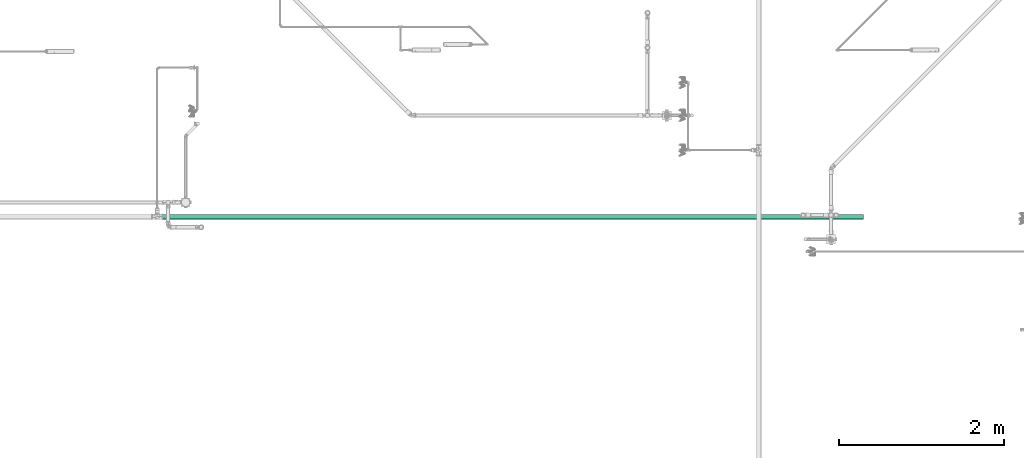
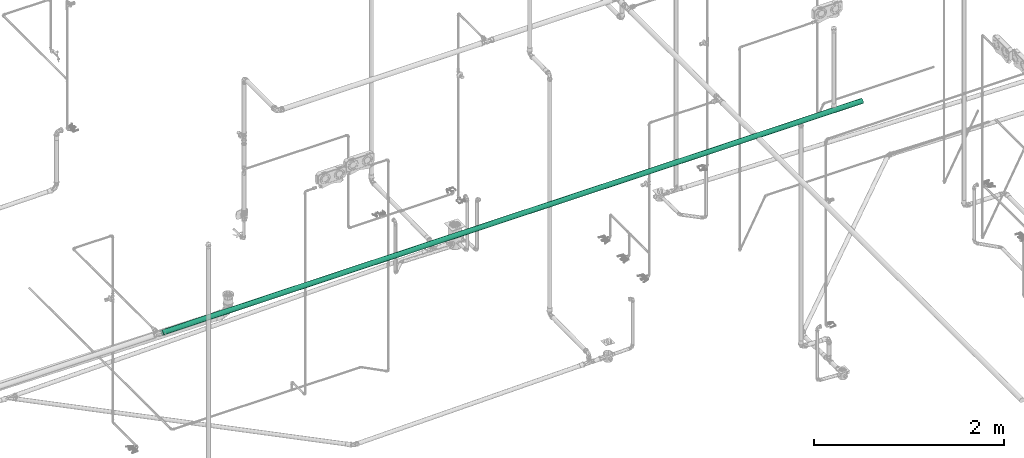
# One storey, part 10 of 589: 1 flow segment.
"""IFC2X3 building model written with IfcOpenShell, lengths in millimetres."""

import ifcopenshell
import ifcopenshell.guid

model = None  # the IFC model being written
_history = None  # IfcOwnerHistory: only IFC2X3 demands one
_inside = {}  # id of a spatial element -> (the spatial element, [elements in it])
_under = {}  # id of a project, library or spatial element -> (it, [spatial elements below it])
_declared = {}  # id of a project -> (the project, [libraries it declares])
_typed = {}  # id of a type object -> (the type object, [elements of that type])
_made_of = {}  # id of a material, layer set ... -> (it, [elements and type objects made of it])


def new_model(schema):
    """Start an empty IFC model of exactly this schema.

    Asked for "IFC4X3", IfcOpenShell would pick the latest addendum, in which some entities
    have other attributes; the version numbers below select the first issue.
    IFC2X3 requires an IfcOwnerHistory on every rooted entity: one is made here for all.
    """
    global model, _history
    if schema == "IFC4X3":
        model = ifcopenshell.file(schema_version=(4, 3, 0, 0))
    else:
        model = ifcopenshell.file(schema=schema)
    _inside.clear()
    _under.clear()
    _declared.clear()
    _typed.clear()
    _made_of.clear()
    _history = None
    if model.schema == "IFC2X3":
        org = make("IfcOrganization", Name="unknown")
        user = make(
            "IfcPersonAndOrganization",
            ThePerson=make("IfcPerson", FamilyName="unknown"),
            TheOrganization=org,
        )
        app = make(
            "IfcApplication",
            ApplicationDeveloper=org,
            Version="unknown",
            ApplicationFullName="unknown",
            ApplicationIdentifier="unknown",
        )
        _history = make(
            "IfcOwnerHistory",
            OwningUser=user,
            OwningApplication=app,
            ChangeAction="ADDED",
            CreationDate=0,
        )
    return model


def make(cls, **values):
    """One entity of the class cls with the attributes given. An attribute that is None is left unset."""
    return model.create_entity(
        cls, **{name: value for name, value in values.items() if value is not None}
    )


def entity(cls, *values):
    """Any entity or typed value of the class cls, its attributes in the order of the schema. None: left unset."""
    e = model.create_entity(cls)
    for i, value in enumerate(values):
        if value is not None:
            e[i] = value
    return e


def rooted(cls, **values):
    """An entity with a GlobalId (a new one), such as an element, a storey or a relation."""
    return make(cls, GlobalId=ifcopenshell.guid.new(), OwnerHistory=_history, **values)


def si_unit(unit_type, name, prefix=None):
    """IfcSIUnit, for example si_unit("LENGTHUNIT", "METRE", prefix="MILLI")."""
    return make("IfcSIUnit", UnitType=unit_type, Prefix=prefix, Name=name)


def converted_unit(unit_type, name, factor, base, dimensions=None, offset=None):
    """IfcConversionBasedUnit, such as the inch: factor (a typed value) times the base unit."""
    return make(
        "IfcConversionBasedUnit"
        if offset is None
        else "IfcConversionBasedUnitWithOffset",
        ConversionOffset=offset,
        Dimensions=None
        if dimensions is None
        else entity("IfcDimensionalExponents", *dimensions),
        UnitType=unit_type,
        Name=name,
        ConversionFactor=make(
            "IfcMeasureWithUnit", ValueComponent=factor, UnitComponent=base
        ),
    )


def derived_unit(unit_type, elements):
    """IfcDerivedUnit: a product of units, each with its exponent."""
    return make(
        "IfcDerivedUnit",
        Elements=[
            make("IfcDerivedUnitElement", Unit=unit, Exponent=power)
            for unit, power in elements
        ],
        UnitType=unit_type,
    )


def assignment(units):
    """IfcUnitAssignment: the units of a project."""
    return None if units is None else make("IfcUnitAssignment", Units=units)


def point(xyz):
    """IfcCartesianPoint."""
    return None if xyz is None else make("IfcCartesianPoint", Coordinates=xyz)


def direction(xyz):
    """IfcDirection."""
    return None if xyz is None else make("IfcDirection", DirectionRatios=xyz)


def frame(location, z_axis=None, x_axis=None):
    """IfcAxis2Placement3D, a coordinate frame: its origin and axes. An axis left out is left unset."""
    return make(
        "IfcAxis2Placement3D",
        Location=point(location),
        Axis=direction(z_axis),
        RefDirection=direction(x_axis),
    )


def frame_2d(location, x_axis=None):
    """IfcAxis2Placement2D, a coordinate frame in the plane: its origin and x axis."""
    return make(
        "IfcAxis2Placement2D", Location=point(location), RefDirection=direction(x_axis)
    )


def origin():
    """The frame at (0, 0, 0) with its axes left unset."""
    return frame((0.0, 0.0, 0.0))


def place(relative_to, where):
    """IfcLocalPlacement: puts the frame where relative to a parent placement (None: the world)."""
    return make(
        "IfcLocalPlacement", PlacementRelTo=relative_to, RelativePlacement=where
    )


def context(
    kind, dimensions, precision=None, world=None, true_north=None, identifier=None
):
    """IfcGeometricRepresentationContext, for example the 3D "Model" context."""
    return make(
        "IfcGeometricRepresentationContext",
        ContextIdentifier=identifier,
        ContextType=kind,
        CoordinateSpaceDimension=dimensions,
        Precision=precision,
        WorldCoordinateSystem=world,
        TrueNorth=true_north,
    )


def subcontext(parent, identifier, kind, view, scale=None):
    """IfcGeometricRepresentationSubContext, for example "Body" below "Model"."""
    return make(
        "IfcGeometricRepresentationSubContext",
        ContextIdentifier=identifier,
        ContextType=kind,
        ParentContext=parent,
        TargetScale=scale,
        TargetView=view,
    )


def project(units=None, contexts=None):
    """IfcProject with its units and contexts."""
    return rooted(
        "IfcProject",
        Name="project",
        RepresentationContexts=contexts,
        UnitsInContext=assignment(units),
    )


def spatial(cls, under=None, at=None, **own):
    """A site, building, storey or space (cls), placed at a placement, below another one or the project."""
    s = rooted(cls, ObjectPlacement=at, **own)
    if under is not None:
        _under.setdefault(under.id(), (under, []))[1].append(s)
    return s


def profile(cls, at=None, kind="AREA", **sizes):
    """A parametric profile (cls). Its sizes go by their IFC names, for example OverallWidth=200.0."""
    return make(cls, ProfileType=kind, Position=at, **sizes)


def circle(**sizes):
    """IfcCircleProfileDef."""
    return profile("IfcCircleProfileDef", **sizes)


def extrude(swept, where, along, depth):
    """IfcExtrudedAreaSolid: the profile swept, set in the frame where, extruded along a direction by depth."""
    return make(
        "IfcExtrudedAreaSolid",
        SweptArea=swept,
        Position=where,
        ExtrudedDirection=direction(along),
        Depth=depth,
    )


def shape(context_of_items, identifier, shape_type, items):
    """IfcShapeRepresentation: the items that make up one representation, for example the "Body"."""
    return make(
        "IfcShapeRepresentation",
        ContextOfItems=context_of_items,
        RepresentationIdentifier=identifier,
        RepresentationType=shape_type,
        Items=items,
    )


def made_of(thing, what):
    """Note that an element or type object is made of a material, layer set ...; save() writes the relation."""
    if what is not None:
        _made_of.setdefault(what.id(), (what, []))[1].append(thing)
    return thing


def type_object(cls, material=None, **own):
    """A type object (cls), such as IfcWallType, which elements share."""
    return made_of(rooted(cls, **own), material)


def element(
    cls,
    number,
    at=None,
    inside=None,
    cuts=None,
    type_object=None,
    material=None,
    context=None,
    identifier="Body",
    shape_type=None,
    held_by="IfcProductDefinitionShape",
    body=None,
    shapes=None,
    **own,
):
    """One element of the class cls, such as IfcWall. Its Tag is "e" and its number.

    at: its placement. inside: the storey or other place that contains it. cuts: it is an
    opening in that element (IfcRelVoidsElement). A single representation is given by context,
    identifier, shape_type and body (its items); several are given by shapes. held_by: the class
    of the entity that holds the representations. save() writes the other relations.
    """
    e = rooted(cls, Tag="e%d" % number, ObjectPlacement=at, **own)
    if body is not None:
        shapes = [shape(context, identifier, shape_type, body)]
    if shapes is not None:
        e.Representation = make(held_by, Representations=shapes)
    if inside is not None:
        _inside.setdefault(inside.id(), (inside, []))[1].append(e)
    if cuts is not None:
        rooted(
            "IfcRelVoidsElement", RelatingBuildingElement=cuts, RelatedOpeningElement=e
        )
    if type_object is not None:
        _typed.setdefault(type_object.id(), (type_object, []))[1].append(e)
    return made_of(e, material)


def aggregate(whole, parts):
    """IfcRelAggregates: a whole, such as a stair, and the parts it consists of."""
    return rooted("IfcRelAggregates", RelatingObject=whole, RelatedObjects=parts)


def save(model, path):
    """Write the relations noted so far, then the file.

    IfcRelAggregates (storeys below a building ...), IfcRelContainedInSpatialStructure (elements
    in a storey), IfcRelDefinesByType, IfcRelAssociatesMaterial and IfcRelDeclares: one each for
    every whole, place, type object, material and project.
    """
    for whole, parts in _under.values():
        aggregate(whole, parts)
    for where, things in _inside.values():
        rooted(
            "IfcRelContainedInSpatialStructure",
            RelatedElements=things,
            RelatingStructure=where,
        )
    for kind, things in _typed.values():
        rooted("IfcRelDefinesByType", RelatedObjects=things, RelatingType=kind)
    for what, things in _made_of.values():
        rooted("IfcRelAssociatesMaterial", RelatedObjects=things, RelatingMaterial=what)
    for by, libraries in _declared.values():
        rooted("IfcRelDeclares", RelatingContext=by, RelatedDefinitions=libraries)
    model.write(path)


model = new_model("IFC2X3")

# Units and contexts
model_context = context("Model", 3, precision=0.01, world=origin(), true_north=direction((6.123031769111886e-17, 1.0)))
body_context = subcontext(model_context, "Body", "Model", "MODEL_VIEW")
ifc_project = project(units=[si_unit("LENGTHUNIT", "METRE", prefix="MILLI"), si_unit("AREAUNIT", "SQUARE_METRE"), si_unit("VOLUMEUNIT", "CUBIC_METRE"), converted_unit("PLANEANGLEUNIT", "DEGREE", entity("IfcRatioMeasure", 0.017453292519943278), si_unit("PLANEANGLEUNIT", "RADIAN"), dimensions=[0, 0, 0, 0, 0, 0, 0]), si_unit("MASSUNIT", "GRAM", prefix="KILO"), derived_unit("MASSDENSITYUNIT", [(si_unit("MASSUNIT", "GRAM", prefix="KILO"), 1), (si_unit("LENGTHUNIT", "METRE"), -3)]), derived_unit("IONCONCENTRATIONUNIT", [(si_unit("MASSUNIT", "GRAM", prefix="KILO"), 1), (si_unit("LENGTHUNIT", "METRE"), -3)]), derived_unit("MOMENTOFINERTIAUNIT", [(si_unit("LENGTHUNIT", "METRE"), 4)]), si_unit("TIMEUNIT", "SECOND"), si_unit("FREQUENCYUNIT", "HERTZ"), si_unit("THERMODYNAMICTEMPERATUREUNIT", "DEGREE_CELSIUS"), derived_unit("THERMALTRANSMITTANCEUNIT", [(si_unit("MASSUNIT", "GRAM", prefix="KILO"), 1), (si_unit("THERMODYNAMICTEMPERATUREUNIT", "KELVIN"), -1), (si_unit("TIMEUNIT", "SECOND"), -3)]), derived_unit("THERMALCONDUCTANCEUNIT", [(si_unit("MASSUNIT", "GRAM", prefix="KILO"), 1), (si_unit("THERMODYNAMICTEMPERATUREUNIT", "KELVIN"), -1), (si_unit("TIMEUNIT", "SECOND"), -3), (si_unit("LENGTHUNIT", "METRE"), 1)]), derived_unit("VOLUMETRICFLOWRATEUNIT", [(si_unit("LENGTHUNIT", "METRE"), 3), (si_unit("TIMEUNIT", "SECOND"), -1)]), derived_unit("MASSFLOWRATEUNIT", [(si_unit("MASSUNIT", "GRAM", prefix="KILO"), 1), (si_unit("TIMEUNIT", "SECOND"), -1)]), derived_unit("ROTATIONALFREQUENCYUNIT", [(si_unit("TIMEUNIT", "SECOND"), -1)]), si_unit("ELECTRICCURRENTUNIT", "AMPERE"), si_unit("ELECTRICVOLTAGEUNIT", "VOLT"), si_unit("POWERUNIT", "WATT"), si_unit("FORCEUNIT", "NEWTON", prefix="KILO"), si_unit("ILLUMINANCEUNIT", "LUX"), si_unit("LUMINOUSFLUXUNIT", "LUMEN"), si_unit("LUMINOUSINTENSITYUNIT", "CANDELA"), derived_unit("USERDEFINED", [(si_unit("MASSUNIT", "GRAM", prefix="KILO"), -1), (si_unit("LENGTHUNIT", "METRE"), -2), (si_unit("TIMEUNIT", "SECOND"), 3), (si_unit("LUMINOUSFLUXUNIT", "LUMEN"), 1)]), derived_unit("USERDEFINED", [(si_unit("MASSUNIT", "GRAM", prefix="KILO"), 1), (si_unit("TIMEUNIT", "SECOND"), -3), (si_unit("LENGTHUNIT", "METRE"), 3), (si_unit("ELECTRICCURRENTUNIT", "AMPERE"), -2)]), derived_unit("SOUNDPOWERUNIT", [(si_unit("MASSUNIT", "GRAM", prefix="KILO"), 1), (si_unit("TIMEUNIT", "SECOND"), -3), (si_unit("LENGTHUNIT", "METRE"), 2)]), derived_unit("SOUNDPRESSUREUNIT", [(si_unit("MASSUNIT", "GRAM", prefix="KILO"), 1), (si_unit("LENGTHUNIT", "METRE"), -1), (si_unit("TIMEUNIT", "SECOND"), -2)]), derived_unit("LINEARVELOCITYUNIT", [(si_unit("LENGTHUNIT", "METRE"), 1), (si_unit("TIMEUNIT", "SECOND"), -1)]), si_unit("PRESSUREUNIT", "PASCAL"), derived_unit("USERDEFINED", [(si_unit("MASSUNIT", "GRAM", prefix="KILO"), 1), (si_unit("LENGTHUNIT", "METRE"), -2), (si_unit("TIMEUNIT", "SECOND"), -2)]), derived_unit("LINEARFORCEUNIT", [(si_unit("MASSUNIT", "GRAM", prefix="KILO"), 1), (si_unit("TIMEUNIT", "SECOND"), -2)]), derived_unit("PLANARFORCEUNIT", [(si_unit("MASSUNIT", "GRAM", prefix="KILO"), 1), (si_unit("LENGTHUNIT", "METRE"), -1), (si_unit("TIMEUNIT", "SECOND"), -2)]), derived_unit("SPECIFICHEATCAPACITYUNIT", [(si_unit("THERMODYNAMICTEMPERATUREUNIT", "KELVIN"), -1), (si_unit("LENGTHUNIT", "METRE"), 2), (si_unit("TIMEUNIT", "SECOND"), -2)]), derived_unit("HEATINGVALUEUNIT", [(si_unit("LENGTHUNIT", "METRE"), 2), (si_unit("TIMEUNIT", "SECOND"), -2)]), derived_unit("VAPORPERMEABILITYUNIT", [(si_unit("LENGTHUNIT", "METRE"), -1), (si_unit("TIMEUNIT", "SECOND"), 1)]), derived_unit("DYNAMICVISCOSITYUNIT", [(si_unit("MASSUNIT", "GRAM", prefix="KILO"), 1), (si_unit("TIMEUNIT", "SECOND"), -1), (si_unit("LENGTHUNIT", "METRE"), -1)]), derived_unit("THERMALEXPANSIONCOEFFICIENTUNIT", [(si_unit("THERMODYNAMICTEMPERATUREUNIT", "KELVIN"), -1)]), derived_unit("MODULUSOFELASTICITYUNIT", [(si_unit("MASSUNIT", "GRAM", prefix="KILO"), 1), (si_unit("LENGTHUNIT", "METRE"), -1), (si_unit("TIMEUNIT", "SECOND"), -2)]), derived_unit("ISOTHERMALMOISTURECAPACITYUNIT", [(si_unit("LENGTHUNIT", "METRE"), 3), (si_unit("MASSUNIT", "GRAM", prefix="KILO"), -1)]), derived_unit("MOISTUREDIFFUSIVITYUNIT", [(si_unit("TIMEUNIT", "SECOND"), -1), (si_unit("LENGTHUNIT", "METRE"), 2)])], contexts=[model_context])

# Site, building, storey
site_placement = place(None, origin())
site = spatial("IfcSite", under=ifc_project, at=site_placement, Name="Default", CompositionType="ELEMENT")
building_placement = place(site_placement, origin())
building = spatial("IfcBuilding", under=site, at=building_placement, CompositionType="ELEMENT")
storey_placement = place(building_placement, frame((0.0, 0.0, 100.0)))
storey = spatial("IfcBuildingStorey", under=building, at=storey_placement, Name="TÉRREO", CompositionType="ELEMENT", Elevation=100.0)

# Flow segment
pipe_segment_type = type_object("IfcPipeSegmentType", Name="Tipos de tubos:PVC Marrom Soldável", PredefinedType="NOTDEFINED")
flow_segment_placement = place(storey_placement, origin())
element("IfcFlowSegment", 1, at=flow_segment_placement, inside=storey, type_object=pipe_segment_type, Name="Tipos de tubos:PVC Marrom Soldável", ObjectType="Tipos de tubos:PVC Marrom Soldável", context=body_context, shape_type="SweptSolid", body=[
    extrude(circle(Radius=30.0, at=frame_2d((6.767919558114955e-14, 0.0), x_axis=(1.0, 0.0))), frame((-3190.8598625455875, -528.924137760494, 3000.0), z_axis=(1.0, 0.0, 0.0), x_axis=(0.0, -1.0, 0.0)), (0.0, 0.0, 1.0), 8501.975730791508),
])

save(model, "model.ifc")
